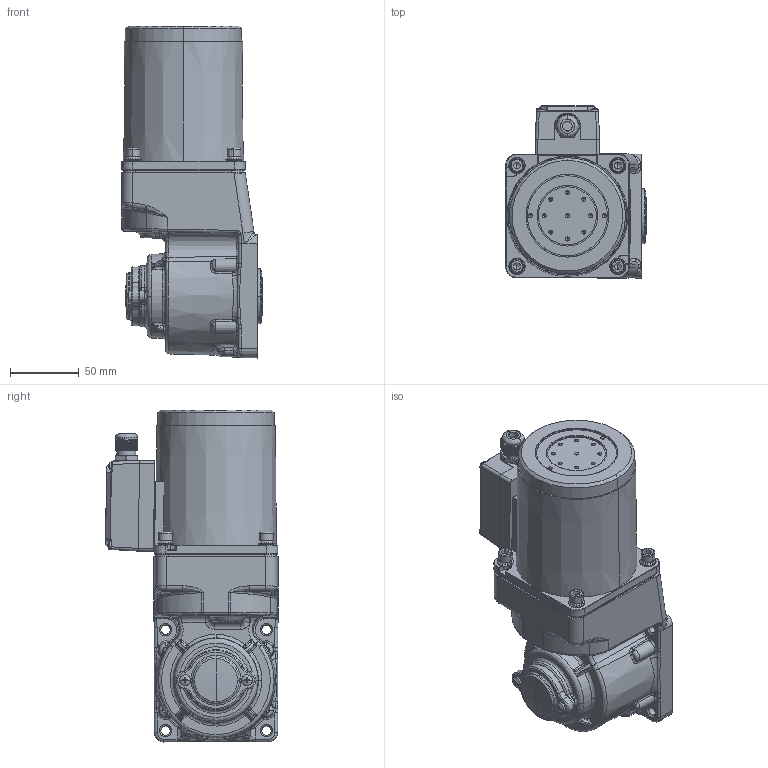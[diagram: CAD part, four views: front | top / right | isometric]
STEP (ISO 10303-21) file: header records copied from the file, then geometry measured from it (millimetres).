
FILE_DESCRIPTION (( 'STEP AP203' ), '1' );
FILE_NAME ('5IK40GU-CT(5GU3RC-180RC)ÐÂ.STEP', '2023-08-17T06:57:25', ( 'Windows User' ), ( 'P R C' ), 'SwSTEP 2.0', 'SolidWorks 2019', '' );
FILE_SCHEMA (( 'CONFIG_CONTROL_DESIGN' ));
Length unit declared in the file: millimetre
Products named in the file (9): cross recessed pan head screws gb_GB_CROSS_SCREWS_TYPE1 M4X6-6  H type-N^5IK40GU-CT(5GU3RC-180RC)ÐÂ(2)_5IK40GU-CT(5GU3RC-180RC)ÐÂ; ZD-5GU50RC-505-003______1^5IK40GU-CT(5GU3RC-180RC)陔(2)_5IK40GU-CT(5GU3RC-180RC)陔; 90RT____________^5IK40GU-CT(5GU3RC-180RC)陔(2)_5IK40GU-CT(5GU3RC-180RC)陔; 90__________^5IK40GU-CT(5GU3RC-180RC)陔(2)_5IK40GU-CT(5GU3RC-180RC)陔; 5IK40GU-CT(5GU3RC-180RC)陔; 90__________-0^5IK40GU-CT(5GU3RC-180RC)陔(2)_5IK40GU-CT(5GU3RC-180RC)陔; 5IK40GU-CT(5GU3RC-180RC)陔(2)^5IK40GU-CT(5GU3RC-180RC)陔; hexagon socket head cap screws gb_GB_FASTENER_SCREWS_HSHCS M5X12-N^5IK40GU-CT(5GU3RC-180RC)ÐÂ(2)_5IK40GU-CT(5GU3RC-180RC)ÐÂ; 5IK40GU-CT(5GU3RC-180RC)^5IK40GU-CT(5GU3RC-180RC)ÐÂ(2)_5IK40GU-CT(5GU3RC-180RC)ÐÂ
Assembly tree (12 placements, depth 3):
  5IK40GU-CT(5GU3RC-180RC)陔
    5IK40GU-CT(5GU3RC-180RC)陔(2)^5IK40GU-CT(5GU3RC-180RC)陔
      90__________^5IK40GU-CT(5GU3RC-180RC)陔(2)_5IK40GU-CT(5GU3RC-180RC)陔
      90RT____________^5IK40GU-CT(5GU3RC-180RC)陔(2)_5IK40GU-CT(5GU3RC-180RC)陔
      90__________-0^5IK40GU-CT(5GU3RC-180RC)陔(2)_5IK40GU-CT(5GU3RC-180RC)陔
      hexagon socket head cap screws gb_GB_FASTENER_SCREWS_HSHCS M5X12-N^5IK40GU-CT(5GU3RC-180RC)ÐÂ(2)_5IK40GU-CT(5GU3RC-180RC)ÐÂ  x4
      ZD-5GU50RC-505-003______1^5IK40GU-CT(5GU3RC-180RC)陔(2)_5IK40GU-CT(5GU3RC-180RC)陔
      cross recessed pan head screws gb_GB_CROSS_SCREWS_TYPE1 M4X6-6  H type-N^5IK40GU-CT(5GU3RC-180RC)ÐÂ(2)_5IK40GU-CT(5GU3RC-180RC)ÐÂ  x2
      5IK40GU-CT(5GU3RC-180RC)^5IK40GU-CT(5GU3RC-180RC)ÐÂ(2)_5IK40GU-CT(5GU3RC-180RC)ÐÂ
Bounding box: 102.5 x 125.86 x 242.04 mm (x, y, z)
Volume: 1564127.7 mm3; surface area: 186563.9 mm2
Topology: 32 solids, 33 shells, 2619 faces, 6572 edges, 3931 vertices
Faces by surface type: cone 720, plane 644, cylinder 620, bspline 546, torus 83, sphere 6
Entity records: 108604 total; most frequent: CARTESIAN_POINT 52164, ORIENTED_EDGE 12378, DIRECTION 10721, EDGE_CURVE 6189, AXIS2_PLACEMENT_3D 4301, VERTEX_POINT 3788, EDGE_LOOP 2625, FACE_OUTER_BOUND 2519
